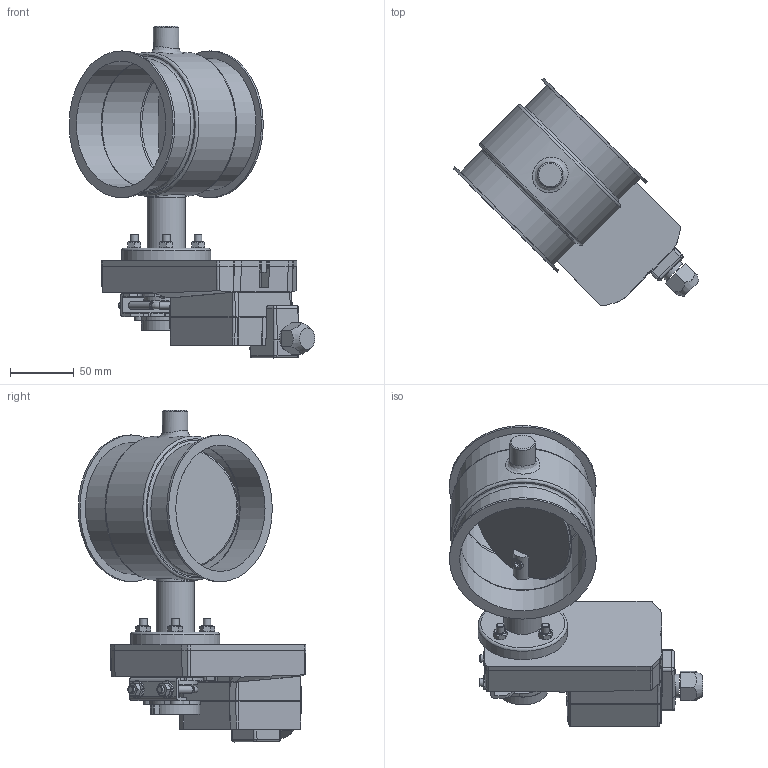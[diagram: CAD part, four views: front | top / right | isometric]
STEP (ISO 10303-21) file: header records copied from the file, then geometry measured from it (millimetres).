
FILE_DESCRIPTION((''),'2;1');
FILE_NAME('U:\Wolfgang\Marcel-3D\fertig\Kapitel 8\1021214.stp','2011-05-03T15:05:46',('TK1'),(''),'Autodesk Inventor 2010','Autodesk Inventor 2010','');
FILE_SCHEMA(('AUTOMOTIVE_DESIGN { 1 0 10303 214 1 1 1 1 }'));
Length unit declared in the file: millimetre
Products named in the file (10): 1021214; BuchseD15 70-50; 1021210-1; Bolzen D15; Scheibe100b; DIN 6912 M6 x 16; Distanzstück S; SM24A--A_standard_terminal_1cable; DIN 7991 M6x25; DIN 555 - ersetzt durch DIN EN 24034 M6
Assembly tree (17 placements, depth 2):
  1021214
    BuchseD15 70-50
    1021210-1
    Bolzen D15  x2
    Scheibe100b
    DIN 6912 M6 x 16  x2
    Distanzstück S
    SM24A--A_standard_terminal_1cable
    DIN 7991 M6x25  x4
    DIN 555 - ersetzt durch DIN EN 24034 M6  x4
Bounding box: 192.43 x 178.31 x 260 mm (x, y, z)
Volume: 755605 mm3; surface area: 242859.7 mm2
Topology: 20 solids, 20 shells, 730 faces, 1805 edges, 1154 vertices
Faces by surface type: plane 383, cylinder 187, bspline 90, cone 38, torus 24, sphere 8
Full cylindrical faces by diameter (mm): 3 x2, 3.6 x2, 4.2 x4, 4.773 x4, 4.813 x4, 5.1 x1, 5.25 x4, 6 x14, 7 x4, 9.742 x1, 10 x4, 10.083 x1, 12 x4, 14 x2, 15 x6, 15.5 x1, 18.5 x1, 20 x1, 24 x1, 25.194 x1, 26 x2, 30 x2, 30.042 x1, 35 x2, 70 x1, 99 x3, 100 x1, 103 x2, 108 x1, 109 x1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
Entity records: 20437 total; most frequent: CARTESIAN_POINT 5518, ORIENTED_EDGE 2878, DIRECTION 2790, EDGE_CURVE 1439, AXIS2_PLACEMENT_3D 1004, VERTEX_POINT 986, EDGE_LOOP 821, VECTOR 782
